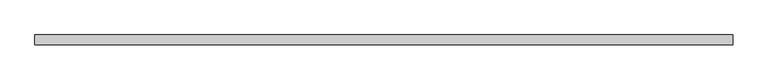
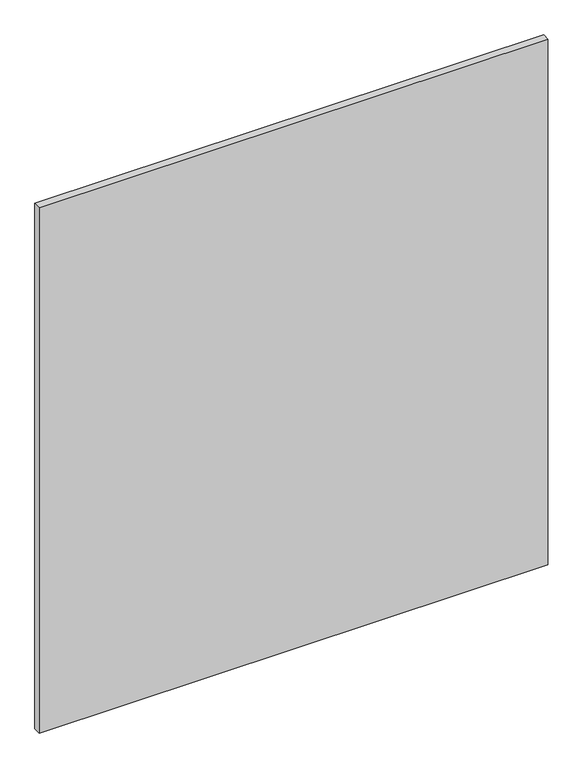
"""IFC4 building model written with IfcOpenShell, lengths in millimetres: plate geometry, Vitré."""

from ifc_helpers import new_model, si_unit, origin, origin_with_axes, place, context, project, spatial, polyline, outline, extrude, source, transform, mapped, element, save


def plate_a2c342aa(model_context):
    return source(origin(), model_context, "Body", "SweptSolid", [
        extrude(outline(polyline([(-1395.6562502, -20.0), (-1395.6562502, 20.0), (1395.6562502, 20.0), (1395.6562502, -20.0), (-1395.6562502, -20.0)])), origin_with_axes(), (0.0, 0.0, 1.0), 3047.625),
    ])


if __name__ == "__main__":
    model = new_model("IFC4")
    model_context = context("Model", 3, world=origin())
    ifc_project = project(units=[si_unit("LENGTHUNIT", "METRE", prefix="MILLI")], contexts=[model_context])
    site = spatial("IfcSite", under=ifc_project)
    building = spatial("IfcBuilding", under=site)
    placement = place(None, origin())
    plate_shape = plate_a2c342aa(model_context)
    element("IfcPlate", 1, ObjectType="Vitré", at=placement, inside=building, context=model_context, shape_type="MappedRepresentation", body=[
        mapped(plate_shape, transform((0.0, 0.0, 0.0), x_axis=(1.0, 0.0, 0.0), y_axis=(0.0, 1.0, 0.0), z_axis=(0.0, 0.0, 1.0))),
    ])
    save(model, "model.ifc")
